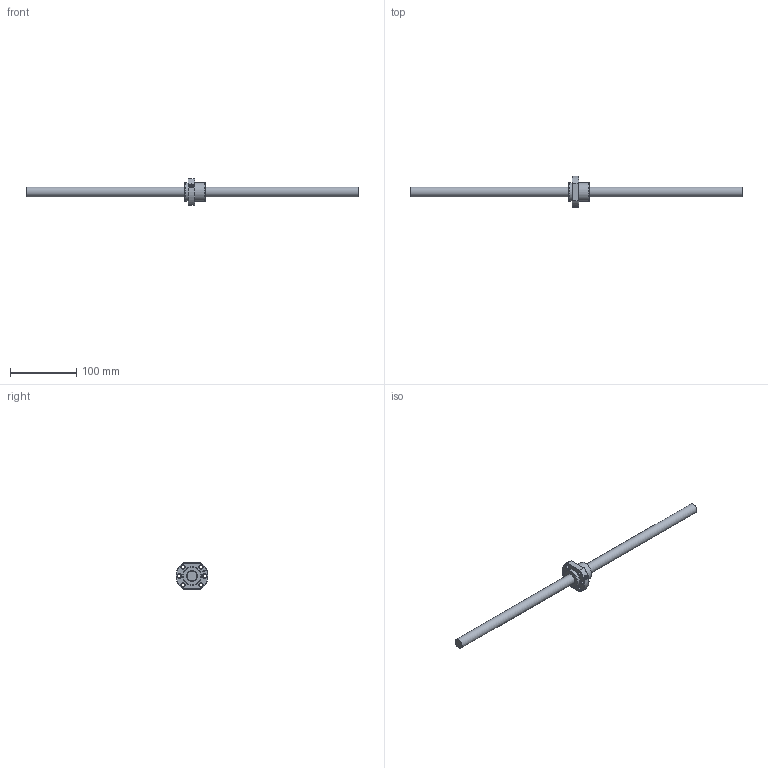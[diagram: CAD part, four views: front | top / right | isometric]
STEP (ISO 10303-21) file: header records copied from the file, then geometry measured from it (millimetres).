
FILE_DESCRIPTION (( 'STEP AP203' ), '1' );
FILE_NAME ('SFA1605-3.8.step', '2024-05-07T07:24:41', ( '' ), ( '' ), 'SwSTEP 2.0', 'SolidWorks 2022', '' );
FILE_SCHEMA (( 'CONFIG_CONTROL_DESIGN' ));
Length unit declared in the file: millimetre
Products named in the file (1): SFA1605-3.8
Bounding box: 500 x 48 x 40 mm (x, y, z)
Volume: 109512.1 mm3; surface area: 32548.2 mm2
Topology: 2 solids, 2 shells, 57 faces, 126 edges, 77 vertices
Faces by surface type: cylinder 19, cone 14, plane 13, torus 6, bspline 5
Full cylindrical faces by diameter (mm): 1.5 x1, 5 x5, 5.5 x6, 15 x1, 16.6 x1, 28 x2
Entity records: 3133 total; most frequent: CARTESIAN_POINT 2089, DIRECTION 196, ORIENTED_EDGE 156, EDGE_LOOP 96, AXIS2_PLACEMENT_3D 90, EDGE_CURVE 78, FACE_OUTER_BOUND 65, VERTEX_POINT 62
